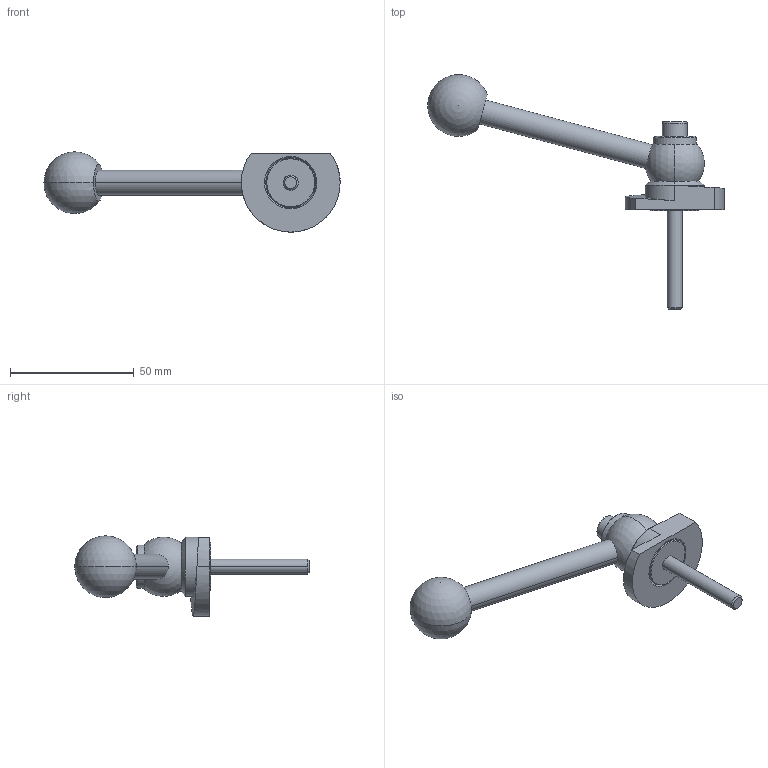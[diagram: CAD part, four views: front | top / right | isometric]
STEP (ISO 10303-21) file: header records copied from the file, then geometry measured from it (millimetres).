
FILE_DESCRIPTION (( 'STEP AP214' ), '1' );
FILE_NAME ('918.1-40-KVS-L-40.step', '2024-05-15T13:00:06', ( '' ), ( '' ), 'SwSTEP 2.0', 'SolidWorks 2022', '' );
FILE_SCHEMA (( 'AUTOMOTIVE_DESIGN' ));
Length unit declared in the file: millimetre
Products named in the file (1): 918.1-40-KVS-L-40
Bounding box: 119.95 x 94.99 x 32.5 mm (x, y, z)
Volume: 30881.2 mm3; surface area: 11590 mm2
Topology: 1 solids, 1 shells, 62 faces, 141 edges, 89 vertices
Faces by surface type: plane 20, cylinder 19, cone 14, sphere 4, bspline 3, torus 2
Entity records: 2003 total; most frequent: CARTESIAN_POINT 614, DIRECTION 304, ORIENTED_EDGE 262, EDGE_CURVE 131, AXIS2_PLACEMENT_3D 125, VERTEX_POINT 83, EDGE_LOOP 74, CIRCLE 65
